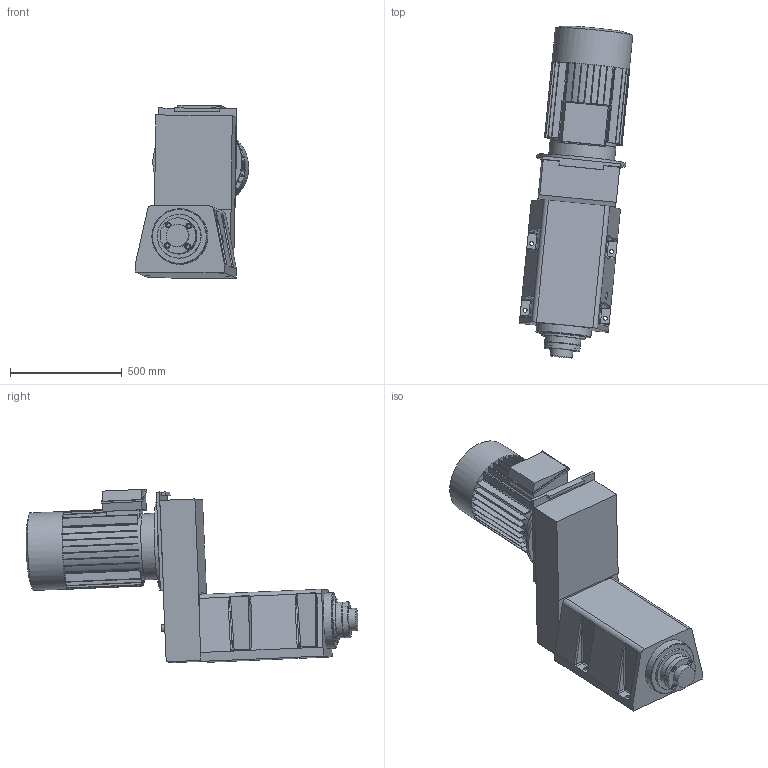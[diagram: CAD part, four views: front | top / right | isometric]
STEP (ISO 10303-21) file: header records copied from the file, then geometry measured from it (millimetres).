
FILE_DESCRIPTION((''),'2;1');
FILE_NAME('C:\VaultWork\Zeichnungen\Maßblätter\BF6\BF01368-0-0 Maßblatt BF6-HSK 100.stp','2009-04-08T13:25:55',('Test'),(''),'Autodesk Inventor 2008','Autodesk Inventor 2008','');
FILE_SCHEMA(('AUTOMOTIVE_DESIGN { 1 0 10303 214 1 1 1 1 }'));
Length unit declared in the file: millimetre
Products named in the file (1): BF01368-0-0 Maßblatt BF6-HSK 100
Bounding box: 507.8 x 1485.1 x 775 mm (x, y, z)
Volume: 151885939.4 mm3; surface area: 3288385.2 mm2
Topology: 1 solids, 2 shells, 435 faces, 1104 edges, 690 vertices
Faces by surface type: plane 280, cylinder 96, bspline 53, cone 6
Full cylindrical faces by diameter (mm): 18 x1, 18.5 x4, 33 x1, 60 x1, 75 x1, 100 x1, 160 x2, 179 x1, 196 x1, 248 x1, 288 x1, 295 x1, 296 x1, 347.4 x1, 400 x1
Entity records: 15761 total; most frequent: CARTESIAN_POINT 4948, DIRECTION 2174, ORIENTED_EDGE 2098, EDGE_CURVE 1049, AXIS2_PLACEMENT_3D 766, VERTEX_POINT 677, VECTOR 642, LINE 642
